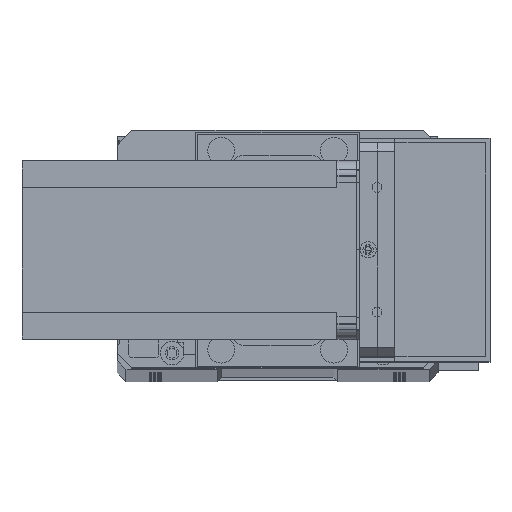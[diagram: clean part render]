
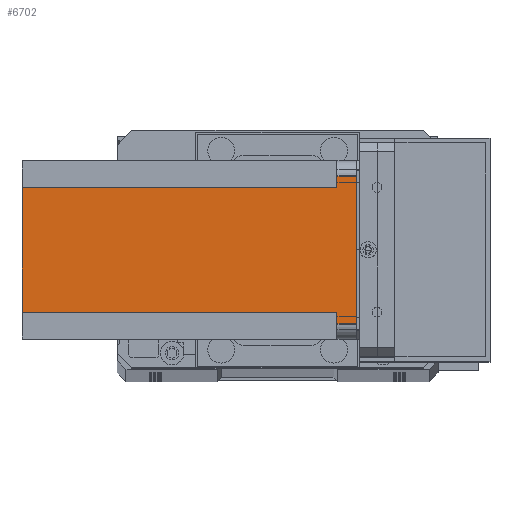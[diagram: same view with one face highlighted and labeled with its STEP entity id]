
A CAD part, top view. The second image highlights one B-rep face of the part: STEP entity #6702.
In plain terms, the highlighted planar face has unit normal (0, 0, 1) as drawn and (1, 0, 0) by its records, which use the part's own axes.
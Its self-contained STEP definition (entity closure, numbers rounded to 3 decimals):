
#890 = CARTESIAN_POINT ( 'NONE',  ( 60., 55., -112.5 ) ) ;
#961 = DIRECTION ( 'NONE',  ( 0., 1., 0. ) ) ;
#1452 = FACE_OUTER_BOUND ( 'NONE', #20513, .T. ) ;
#2287 = EDGE_CURVE ( 'NONE', #28936, #14748, #30539, .T. ) ;
#2812 = DIRECTION ( 'NONE',  ( 0., 1., 0. ) ) ;
#3069 = VECTOR ( 'NONE', #19247, 1000. ) ;
#3161 = CARTESIAN_POINT ( 'NONE',  ( 60., 55., 0. ) ) ;
#3572 = VECTOR ( 'NONE', #28442, 1000. ) ;
#3658 = LINE ( 'NONE', #6487, #9692 ) ;
#4033 = ORIENTED_EDGE ( 'NONE', *, *, #26546, .T. ) ;
#4158 = VECTOR ( 'NONE', #13803, 1000. ) ;
#5055 = LINE ( 'NONE', #15924, #24778 ) ;
#5229 = CARTESIAN_POINT ( 'NONE',  ( 60., 51., -112.5 ) ) ;
#6487 = CARTESIAN_POINT ( 'NONE',  ( 60., 5., -112.5 ) ) ;
#6702 = ADVANCED_FACE ( 'NONE', ( #1452 ), #24049, .T. ) ;
#7672 = ORIENTED_EDGE ( 'NONE', *, *, #24988, .T. ) ;
#8639 = CARTESIAN_POINT ( 'NONE',  ( 60., 9., -112.5 ) ) ;
#9215 = CARTESIAN_POINT ( 'NONE',  ( 60., 0., -6.5 ) ) ;
#9692 = VECTOR ( 'NONE', #19365, 1000. ) ;
#10184 = CARTESIAN_POINT ( 'NONE',  ( 60., 55., -6.5 ) ) ;
#10992 = LINE ( 'NONE', #890, #4158 ) ;
#11090 = VERTEX_POINT ( 'NONE', #24980 ) ;
#12014 = LINE ( 'NONE', #5229, #3572 ) ;
#13273 = LINE ( 'NONE', #20828, #26161 ) ;
#13314 = DIRECTION ( 'NONE',  ( 0., -1., 0. ) ) ;
#13803 = DIRECTION ( 'NONE',  ( 0., 0., 1. ) ) ;
#14748 = VERTEX_POINT ( 'NONE', #20195 ) ;
#15142 = LINE ( 'NONE', #29589, #3069 ) ;
#15413 = VERTEX_POINT ( 'NONE', #10184 ) ;
#15924 = CARTESIAN_POINT ( 'NONE',  ( 60., 60., -6.5 ) ) ;
#16030 = AXIS2_PLACEMENT_3D ( 'NONE', #31861, #16408, #961 ) ;
#16032 = ORIENTED_EDGE ( 'NONE', *, *, #2287, .F. ) ;
#16408 = DIRECTION ( 'NONE',  ( 1., 0., 0. ) ) ;
#17634 = VECTOR ( 'NONE', #24626, 1000. ) ;
#17881 = CARTESIAN_POINT ( 'NONE',  ( 60., 9., -112.5 ) ) ;
#18249 = EDGE_CURVE ( 'NONE', #30420, #27948, #13273, .T. ) ;
#19119 = CARTESIAN_POINT ( 'NONE',  ( 60., 51., -6.5 ) ) ;
#19247 = DIRECTION ( 'NONE',  ( 0., 1., 0. ) ) ;
#19365 = DIRECTION ( 'NONE',  ( 0., 0., -1. ) ) ;
#19866 = EDGE_CURVE ( 'NONE', #21934, #11090, #12014, .T. ) ;
#20195 = CARTESIAN_POINT ( 'NONE',  ( 60., 5., -6.5 ) ) ;
#20513 = EDGE_LOOP ( 'NONE', ( #27377, #4033, #22940, #29304, #16032, #21012, #7672, #22228 ) ) ;
#20828 = CARTESIAN_POINT ( 'NONE',  ( 60., 0., 0. ) ) ;
#21012 = ORIENTED_EDGE ( 'NONE', *, *, #33016, .F. ) ;
#21934 = VERTEX_POINT ( 'NONE', #19119 ) ;
#22228 = ORIENTED_EDGE ( 'NONE', *, *, #19866, .F. ) ;
#22940 = ORIENTED_EDGE ( 'NONE', *, *, #18249, .F. ) ;
#23065 = DIRECTION ( 'NONE',  ( 0., 0., 1. ) ) ;
#23288 = CARTESIAN_POINT ( 'NONE',  ( 60., 5., 0. ) ) ;
#24049 = PLANE ( 'NONE',  #16030 ) ;
#24374 = VECTOR ( 'NONE', #23065, 1000. ) ;
#24626 = DIRECTION ( 'NONE',  ( 0., -1., 0. ) ) ;
#24778 = VECTOR ( 'NONE', #13314, 1000. ) ;
#24980 = CARTESIAN_POINT ( 'NONE',  ( 60., 51., -112.5 ) ) ;
#24988 = EDGE_CURVE ( 'NONE', #29860, #11090, #15142, .T. ) ;
#26161 = VECTOR ( 'NONE', #2812, 1000. ) ;
#26546 = EDGE_CURVE ( 'NONE', #15413, #27948, #10992, .T. ) ;
#27377 = ORIENTED_EDGE ( 'NONE', *, *, #31076, .F. ) ;
#27948 = VERTEX_POINT ( 'NONE', #3161 ) ;
#28130 = EDGE_CURVE ( 'NONE', #30420, #14748, #3658, .T. ) ;
#28442 = DIRECTION ( 'NONE',  ( 0., 0., -1. ) ) ;
#28936 = VERTEX_POINT ( 'NONE', #33439 ) ;
#29304 = ORIENTED_EDGE ( 'NONE', *, *, #28130, .T. ) ;
#29589 = CARTESIAN_POINT ( 'NONE',  ( 60., 0., -112.5 ) ) ;
#29860 = VERTEX_POINT ( 'NONE', #8639 ) ;
#30420 = VERTEX_POINT ( 'NONE', #23288 ) ;
#30539 = LINE ( 'NONE', #9215, #17634 ) ;
#31076 = EDGE_CURVE ( 'NONE', #15413, #21934, #5055, .T. ) ;
#31861 = CARTESIAN_POINT ( 'NONE',  ( 60., 0., -112.5 ) ) ;
#32083 = LINE ( 'NONE', #17881, #24374 ) ;
#33016 = EDGE_CURVE ( 'NONE', #29860, #28936, #32083, .T. ) ;
#33439 = CARTESIAN_POINT ( 'NONE',  ( 60., 9., -6.5 ) ) ;
